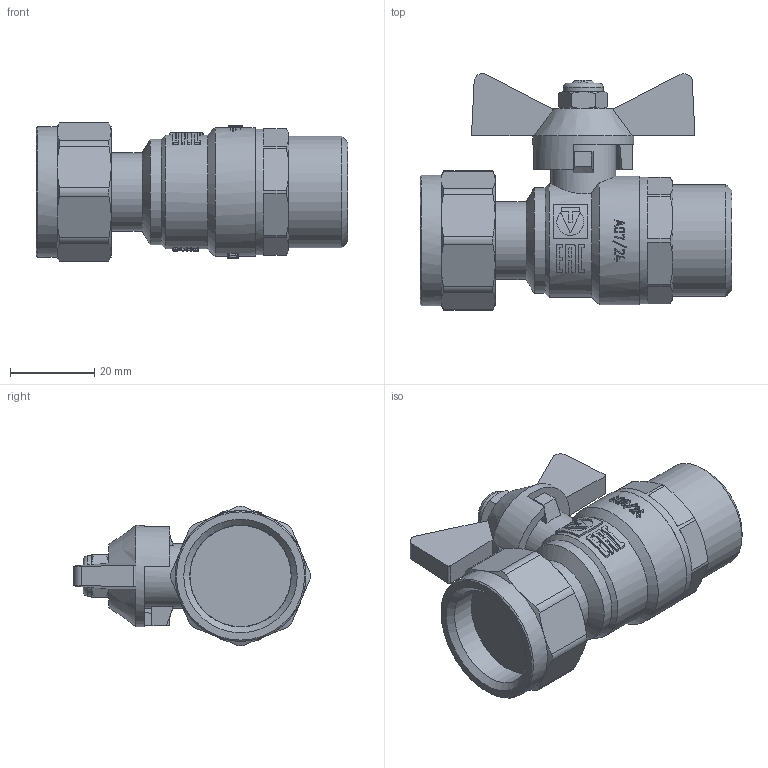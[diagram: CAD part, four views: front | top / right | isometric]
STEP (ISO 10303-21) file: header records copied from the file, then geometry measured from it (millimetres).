
FILE_DESCRIPTION(('STEP AP203'), '1');
FILE_NAME('VT.260.N.0505', '', ('UNSPECIFIED'), ('UNSPECIFIED'), 'C3D Converter', 'C3D Toolkit', '');
FILE_SCHEMA(('CONFIG_CONTROL_DESIGN'));
Length unit declared in the file: millimetre
Products named in the file (1): ВР.491816.044.000 СБ
Bounding box: 73.92 x 56.15 x 33.14 mm (x, y, z)
Volume: 42350.6 mm3; surface area: 16138.4 mm2
Topology: 2 solids, 6 shells, 683 faces, 1814 edges, 1187 vertices
Faces by surface type: plane 280, extrusion 218, cylinder 119, cone 61, torus 5
Full cylindrical faces by diameter (mm): 6 x1, 9.5 x1, 10.5 x1, 12 x1, 15.4 x1, 18.5 x1, 19 x1, 21.4 x1, 24 x2, 24.118 x1, 24.2 x1, 24.3 x1, 25 x1, 26.441 x1, 26.7 x1, 27 x1, 30 x1, 30.5 x1, 31 x1
Entity records: 29971 total; most frequent: CARTESIAN_POINT 14575, ORIENTED_EDGE 3516, DIRECTION 2438, EDGE_CURVE 1758, VERTEX_POINT 1178, VECTOR 932, B_SPLINE_CURVE_WITH_KNOTS 871, EDGE_LOOP 764
